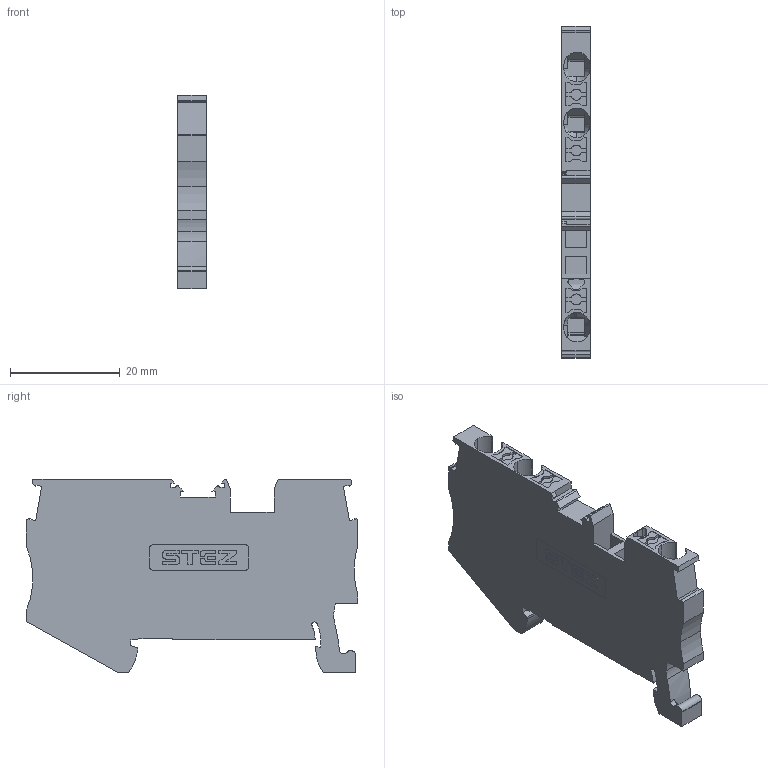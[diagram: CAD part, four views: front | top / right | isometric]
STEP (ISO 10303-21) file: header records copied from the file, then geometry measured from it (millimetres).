
FILE_DESCRIPTION(('TFLEX Exchange Step'),'2;1');
FILE_NAME('14000081_КНБ_2,5-3-С.stp', '2025-06-24T10:54:24+03:00',('MVarava'),('Unknown organisation'),'TFLEX Exchange 2023.0','T-FLEX CAD','Unknown authorisation');
FILE_SCHEMA( ('AUTOMOTIVE_DESIGN { 1 0 10303 214 1 1 1 1 }') );
Length unit declared in the file: millimetre
Products named in the file (1): Nodes
Bounding box: 5.15 x 60.6 x 35.35 mm (x, y, z)
Volume: 7630.8 mm3; surface area: 5711.2 mm2
Topology: 1 solids, 1 shells, 457 faces, 1353 edges, 909 vertices
Faces by surface type: plane 236, cylinder 204, torus 6, cone 6, extrusion 5
Entity records: 16539 total; most frequent: CARTESIAN_POINT 4116, ORIENTED_EDGE 2706, DIRECTION 2518, EDGE_CURVE 1353, VERTEX_POINT 909, AXIS2_PLACEMENT_3D 860, VECTOR 798, LINE 793
